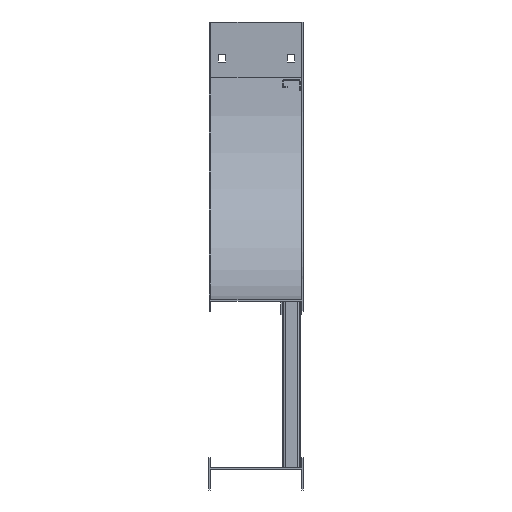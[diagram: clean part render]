
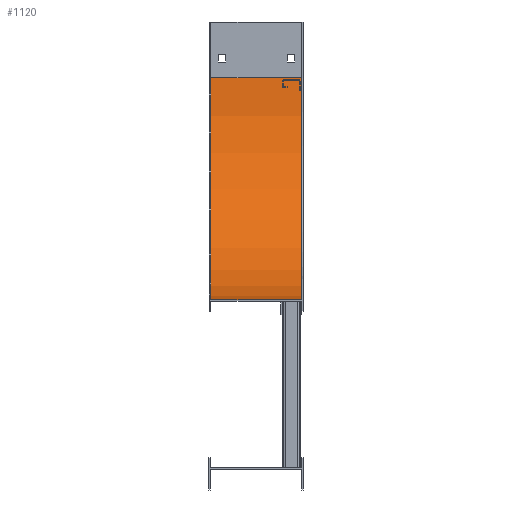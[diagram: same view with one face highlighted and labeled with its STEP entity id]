
A CAD part, left-side view. The second image highlights one B-rep face of the part: STEP entity #1120.
In plain terms, the highlighted cylindrical face has radius 304.8 mm (diameter 609.6 mm), a partial arc.
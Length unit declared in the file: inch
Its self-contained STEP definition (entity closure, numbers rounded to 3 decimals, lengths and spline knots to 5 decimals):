
#157=CARTESIAN_POINT('',(4.995,-12.,3.));
#158=DIRECTION('',(1.,0.,0.));
#159=DIRECTION('',(0.,1.,0.));
#160=AXIS2_PLACEMENT_3D('',#157,#158,#159);
#350=DIRECTION('',(1.,0.,0.));
#351=VECTOR('',#350,4.91);
#352=CARTESIAN_POINT('',(0.085,-12.,15.));
#353=LINE('',#352,#351);
#390=DIRECTION('',(1.,0.,0.));
#391=VECTOR('',#390,4.91);
#392=CARTESIAN_POINT('',(0.085,0.,3.));
#393=LINE('',#392,#391);
#394=CARTESIAN_POINT('',(0.085,-12.,3.));
#395=DIRECTION('',(1.,0.,0.));
#396=DIRECTION('',(0.,1.,0.));
#397=AXIS2_PLACEMENT_3D('',#394,#395,#396);
#521=CARTESIAN_POINT('',(0.085,0.,3.));
#522=CARTESIAN_POINT('',(4.995,0.,3.));
#523=VERTEX_POINT('',#521);
#524=VERTEX_POINT('',#522);
#545=CARTESIAN_POINT('',(0.085,-12.,15.));
#546=CARTESIAN_POINT('',(4.995,-12.,15.));
#547=VERTEX_POINT('',#545);
#548=VERTEX_POINT('',#546);
#1109=CARTESIAN_POINT('',(-1.,-12.,3.));
#1110=DIRECTION('',(1.,0.,0.));
#1111=DIRECTION('',(0.,-1.,0.));
#1112=AXIS2_PLACEMENT_3D('',#1109,#1110,#1111);
#1113=CYLINDRICAL_SURFACE('',#1112,12.);
#1114=ORIENTED_EDGE('',*,*,#894,.F.);
#1115=ORIENTED_EDGE('',*,*,#935,.T.);
#1116=ORIENTED_EDGE('',*,*,#1082,.T.);
#1117=ORIENTED_EDGE('',*,*,#872,.F.);
#1118=EDGE_LOOP('',(#1114,#1115,#1116,#1117));
#1119=FACE_OUTER_BOUND('',#1118,.F.);
#1120=ADVANCED_FACE('',(#1119),#1113,.F.);
#161=CIRCLE('',#160,12.);
#398=CIRCLE('',#397,12.);
#872=EDGE_CURVE('',#524,#548,#161,.T.);
#894=EDGE_CURVE('',#523,#524,#393,.T.);
#935=EDGE_CURVE('',#523,#547,#398,.T.);
#1082=EDGE_CURVE('',#547,#548,#353,.T.);
